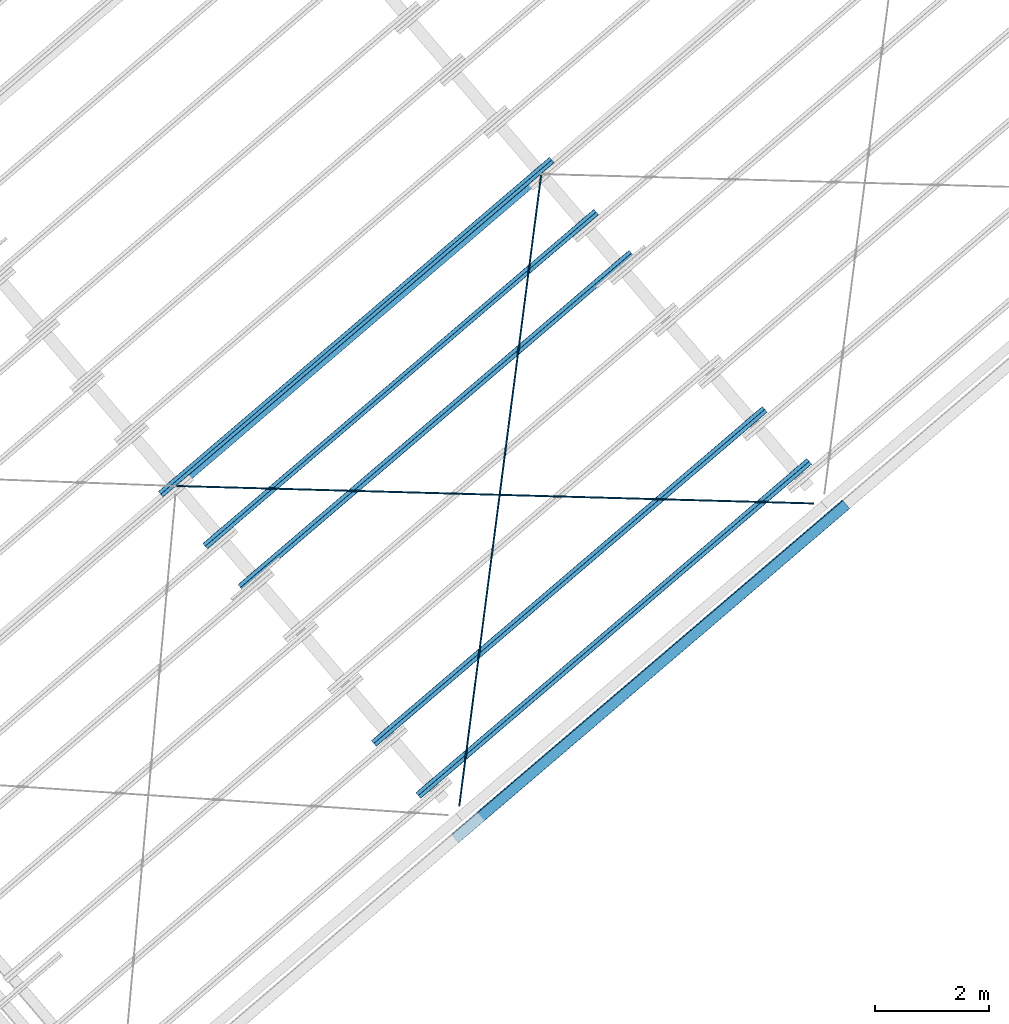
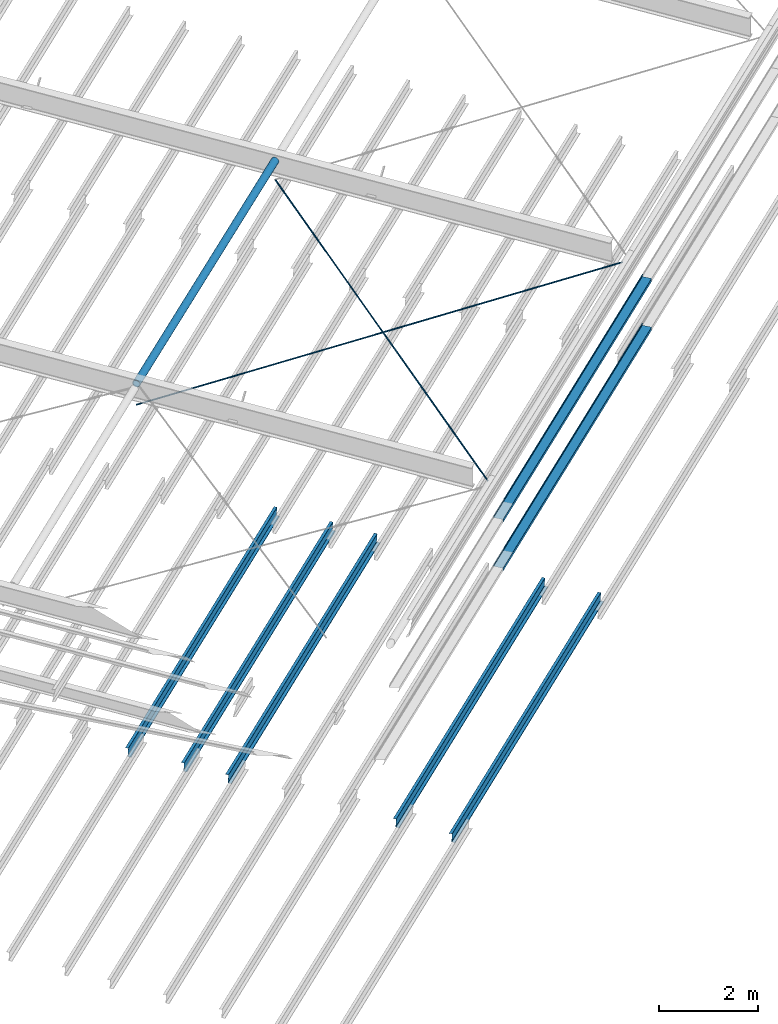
# One storey, part 5 of 25: 8 beams, 2 members, 2 elements without a shape of their own.
"""IFC2X3 building model written with IfcOpenShell, lengths in millimetres."""

from ifc_helpers import new_model, entity, si_unit, converted_unit, derived_unit, direction, frame, frame_2d, origin, origin_2d_with_axis, place, context, subcontext, project, spatial, polyline, circle_curve, parameter, trimmed, segment, composite_curve, circle, hollow_circle, outline, extrude, source, transform, mapped, material, type_object, type_shapes, element, aggregate, save


model = new_model("IFC2X3")

# Units and contexts
model_context = context("Model", 3, precision=0.01, world=origin(), true_north=direction((6.123031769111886e-17, 1.0)))
body_context = subcontext(model_context, "Body", "Model", "MODEL_VIEW")
ifc_project = project(units=[si_unit("LENGTHUNIT", "METRE", prefix="MILLI"), si_unit("AREAUNIT", "SQUARE_METRE"), si_unit("VOLUMEUNIT", "CUBIC_METRE"), converted_unit("PLANEANGLEUNIT", "DEGREE", entity("IfcRatioMeasure", 0.017453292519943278), si_unit("PLANEANGLEUNIT", "RADIAN"), dimensions=[0, 0, 0, 0, 0, 0, 0]), si_unit("MASSUNIT", "GRAM", prefix="KILO"), derived_unit("MASSDENSITYUNIT", [(si_unit("MASSUNIT", "GRAM", prefix="KILO"), 1), (si_unit("LENGTHUNIT", "METRE"), -3)]), derived_unit("MOMENTOFINERTIAUNIT", [(si_unit("LENGTHUNIT", "METRE"), 4)]), si_unit("TIMEUNIT", "SECOND"), si_unit("FREQUENCYUNIT", "HERTZ"), si_unit("THERMODYNAMICTEMPERATUREUNIT", "DEGREE_CELSIUS"), derived_unit("THERMALTRANSMITTANCEUNIT", [(si_unit("MASSUNIT", "GRAM", prefix="KILO"), 1), (si_unit("THERMODYNAMICTEMPERATUREUNIT", "KELVIN"), -1), (si_unit("TIMEUNIT", "SECOND"), -3)]), derived_unit("VOLUMETRICFLOWRATEUNIT", [(si_unit("LENGTHUNIT", "METRE"), 3), (si_unit("TIMEUNIT", "SECOND"), -1)]), derived_unit("MASSFLOWRATEUNIT", [(si_unit("MASSUNIT", "GRAM", prefix="KILO"), 1), (si_unit("TIMEUNIT", "SECOND"), -1)]), derived_unit("ROTATIONALFREQUENCYUNIT", [(si_unit("TIMEUNIT", "SECOND"), -1)]), si_unit("ELECTRICCURRENTUNIT", "AMPERE"), si_unit("ELECTRICVOLTAGEUNIT", "VOLT"), si_unit("POWERUNIT", "WATT"), si_unit("FORCEUNIT", "NEWTON", prefix="KILO"), si_unit("ILLUMINANCEUNIT", "LUX"), si_unit("LUMINOUSFLUXUNIT", "LUMEN"), si_unit("LUMINOUSINTENSITYUNIT", "CANDELA"), derived_unit("USERDEFINED", [(si_unit("MASSUNIT", "GRAM", prefix="KILO"), -1), (si_unit("LENGTHUNIT", "METRE"), -2), (si_unit("TIMEUNIT", "SECOND"), 3), (si_unit("LUMINOUSFLUXUNIT", "LUMEN"), 1)]), derived_unit("SOUNDPOWERUNIT", [(si_unit("MASSUNIT", "GRAM", prefix="KILO"), 1), (si_unit("LENGTHUNIT", "METRE"), 2), (si_unit("TIMEUNIT", "SECOND"), -3)]), derived_unit("LINEARVELOCITYUNIT", [(si_unit("LENGTHUNIT", "METRE"), 1), (si_unit("TIMEUNIT", "SECOND"), -1)]), si_unit("PRESSUREUNIT", "PASCAL"), derived_unit("USERDEFINED", [(si_unit("LENGTHUNIT", "METRE"), -2), (si_unit("MASSUNIT", "GRAM", prefix="KILO"), 1), (si_unit("TIMEUNIT", "SECOND"), -2)]), derived_unit("LINEARFORCEUNIT", [(si_unit("MASSUNIT", "GRAM", prefix="KILO"), 1), (si_unit("LENGTHUNIT", "METRE"), 1), (si_unit("TIMEUNIT", "SECOND"), -2), (si_unit("LENGTHUNIT", "METRE"), -1)]), derived_unit("PLANARFORCEUNIT", [(si_unit("MASSUNIT", "GRAM", prefix="KILO"), 1), (si_unit("LENGTHUNIT", "METRE"), 1), (si_unit("TIMEUNIT", "SECOND"), -2), (si_unit("LENGTHUNIT", "METRE"), -2)])], contexts=[model_context])

# Site, building, storey
site_placement = place(None, frame((962.4174930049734, -6014.433753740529, 0.0), z_axis=(0.0, 0.0, 1.0), x_axis=(0.7601792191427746, 0.649713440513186, 0.0)))
site = spatial("IfcSite", under=ifc_project, at=site_placement, Name="Default", CompositionType="ELEMENT")
building_placement = place(site_placement, origin())
building = spatial("IfcBuilding", under=site, at=building_placement, CompositionType="ELEMENT")
storey_placement = place(building_placement, frame((0.0, 0.0, 9200.0)))
storey = spatial("IfcBuildingStorey", under=building, at=storey_placement, Name="TOP OF CEILING", CompositionType="ELEMENT", Elevation=9200.000000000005)

# Beams
ifc_material_1 = material(Name="Metal - Steel - 300 MPa")
beam_type_1 = type_object("IfcBeamType", Name="ADSK_AU_CHS-Circular Hollow Sections (AS 1163_C350):168.3x6.4CHS", PredefinedType="NOTDEFINED")
beam_1_placement = place(storey_placement, frame((170738.9602047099, -18370.81558212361, 2557.8785563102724), z_axis=(0.005014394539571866, 0.0, 0.9999874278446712), x_axis=(-0.9999874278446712, 0.0, 0.005014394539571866)))
element("IfcBeam", 1, at=beam_1_placement, inside=storey, type_object=beam_type_1, material=ifc_material_1, Name="ADSK_AU_CHS-Circular Hollow Sections (AS 1163_C350):168.3x6.4CHS", ObjectType="ADSK_AU_CHS-Circular Hollow Sections (AS 1163_C350):168.3x6.4CHS", context=body_context, shape_type="SweptSolid", body=[
    extrude(hollow_circle(Radius=84.15000000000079, WallThickness=6.4000000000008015, at=origin_2d_with_axis()), frame((12.7028037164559, 0.0, -84.15000000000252), z_axis=(1.0, 0.0, 0.0), x_axis=(0.0, 1.0, 0.0)), (0.0, 0.0, 1.0), 8387.400000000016),
])
beam_type_2 = type_object("IfcBeamType", Name="ADSK_AU_Round Bars (AS 3679_1):24ROD", PredefinedType="NOTDEFINED")
beam_2_placement = place(storey_placement, frame((162338.96020471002, -18370.815582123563, 2010.0), z_axis=(0.013765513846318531, -0.012433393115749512, 0.9998279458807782), x_axis=(0.741974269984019, -0.6701716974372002, -0.01854935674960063)))
element("IfcBeam", 2, at=beam_2_placement, inside=storey, type_object=beam_type_2, Name="ADSK_AU_Round Bars (AS 3679_1):24ROD", ObjectType="ADSK_AU_Round Bars (AS 3679_1):24ROD", context=body_context, shape_type="SweptSolid", body=[
    extrude(circle(Radius=11.99999999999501, at=frame_2d((-9.771676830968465e-24, 1.082680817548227e-11), x_axis=(1.0, 0.0))), frame((0.023647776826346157, 0.0, -12.0), z_axis=(1.0, 0.0, 0.0), x_axis=(0.0, -1.0, 0.0)), (0.0, 0.0, 1.0), 11156.700000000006),
])
ifc_material_2 = material(Name="Colorbond Paint - Basalt")
beam_3_placement = place(storey_placement, frame((170738.96020470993, -18370.81558212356, 2010.0), z_axis=(-0.013765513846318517, -0.012433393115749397, 0.9998279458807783), x_axis=(-0.7419742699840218, -0.6701716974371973, -0.018549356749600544)))
element("IfcBeam", 3, at=beam_3_placement, inside=storey, type_object=beam_type_2, material=ifc_material_2, Name="ADSK_AU_Round Bars (AS 3679_1):24ROD", ObjectType="ADSK_AU_Round Bars (AS 3679_1):24ROD", context=body_context, shape_type="SweptSolid", body=[
    extrude(circle(Radius=11.99999999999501, at=frame_2d((-9.771676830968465e-24, 1.0826808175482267e-11), x_axis=(1.0, 0.0))), frame((26.523647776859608, 0.0, -12.0), z_axis=(1.0, 0.0, 0.0), x_axis=(0.0, -1.0, 0.0)), (0.0, 0.0, 1.0), 11130.200000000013),
])

# Members
ifc_material_3 = material(Name="Metal - Steel - 345 MPa")
member_type = type_object("IfcMemberType", Name="ADSK_AU_Light Gauge-Zeds:Z20012", PredefinedType="BRACE", material=ifc_material_3)
shared_shape = source(origin(), body_context, "Body", "SweptSolid", [
    extrude(outline(composite_curve([segment(polyline([(-98.30000000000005, -66.44000000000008), (-82.0, -66.44000000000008)]), True, "CONTINUOUS"), segment(polyline([(-82.0, -66.44000000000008), (-82.0, -65.24000000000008)]), True, "CONTINUOUS"), segment(polyline([(-82.0, -65.24000000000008), (-98.29999999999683, -65.24000000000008)]), True, "CONTINUOUS"), segment(trimmed(circle_curve(frame_2d((-98.30000000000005, -63.24000000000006), x_axis=(0.0, -1.0)), 2.0000000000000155), [parameter(270.00000000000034)], [parameter(0.0)], True, "PARAMETER"), False, "CONTINUOUS"), segment(polyline([(-100.3, -63.24000000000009), (-100.29999999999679, -6.440000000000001)]), True, "CONTINUOUS"), segment(trimmed(circle_curve(frame_2d((-98.29999999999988, -6.439999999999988), x_axis=(-1.0, 0.0)), 1.9999999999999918), [parameter(269.9999999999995)], [parameter(0.0)], True, "PARAMETER"), False, "CONTINUOUS"), segment(polyline([(-98.29999999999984, -4.439999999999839), (98.30000000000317, -4.439999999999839)]), True, "CONTINUOUS"), segment(trimmed(circle_curve(frame_2d((98.29999999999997, -1.239999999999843), x_axis=(0.0, -1.0)), 3.199999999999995), [parameter(0.0)], [parameter(90.00000000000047)], True, "PARAMETER"), True, "CONTINUOUS"), segment(polyline([(101.49999999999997, -1.2399999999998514), (101.50000000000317, 68.3599999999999)]), True, "CONTINUOUS"), segment(trimmed(circle_curve(frame_2d((98.29999999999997, 68.35999999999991), x_axis=(1.0, 0.0)), 3.2000000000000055), [parameter(0.0)], [parameter(90.00000000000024)], True, "PARAMETER"), True, "CONTINUOUS"), segment(polyline([(98.3, 71.5599999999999), (82.0, 71.5599999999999)]), True, "CONTINUOUS"), segment(polyline([(82.0, 71.5599999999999), (82.0, 70.3599999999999)]), True, "CONTINUOUS"), segment(polyline([(82.0, 70.3599999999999), (98.30000000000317, 70.3599999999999)]), True, "CONTINUOUS"), segment(trimmed(circle_curve(frame_2d((98.29999999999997, 68.35999999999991), x_axis=(0.0, 1.0)), 1.9999999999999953), [parameter(269.99999999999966)], [parameter(0.0)], True, "PARAMETER"), False, "CONTINUOUS"), segment(polyline([(100.29999999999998, 68.3599999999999), (100.30000000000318, -1.2399999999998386)]), True, "CONTINUOUS"), segment(trimmed(circle_curve(frame_2d((98.29999999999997, -1.2399999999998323), x_axis=(1.0, 0.0)), 2.000000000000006), [parameter(270.00000000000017)], [parameter(0.0)], True, "PARAMETER"), False, "CONTINUOUS"), segment(polyline([(98.3, -3.2399999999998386), (-98.29999999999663, -3.2399999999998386)]), True, "CONTINUOUS"), segment(trimmed(circle_curve(frame_2d((-98.29999999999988, -6.439999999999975), x_axis=(0.0, 1.0)), 3.200000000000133), [parameter(0.0)], [parameter(90.00000000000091)], True, "PARAMETER"), True, "CONTINUOUS"), segment(polyline([(-101.5, -6.440000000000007), (-101.49999999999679, -63.24000000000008)]), True, "CONTINUOUS"), segment(trimmed(circle_curve(frame_2d((-98.30000000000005, -63.24000000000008), x_axis=(-1.0, 0.0)), 3.200000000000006), [parameter(0.0)], [parameter(90.00000000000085)], True, "PARAMETER"), True, "CONTINUOUS")], self_intersect=False)), frame((-4584.499999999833, 4.439999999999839, 0.0), z_axis=(1.0, 0.0, 0.0), x_axis=(0.0, 0.0, -1.0)), (0.0, 0.0, 1.0), 8999.999999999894),
])
type_shapes(member_type, [shared_shape])
for number, where, z_axis, x_axis, name in (
    (4, (166623.46020470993, -26224.928082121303, 22.39999999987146), (0.0, 1.0, 0.0), (1.0, 0.0, 0.0), "ADSK_AU_Light Gauge-Zeds:Z20012"),
    (5, (166623.46020470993, -26224.928082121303, 1222.3999999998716), (0.0, 1.0, 0.0), (1.0, 0.0, 0.0), "ADSK_AU_Light Gauge-Zeds:Z20012"),
):
    element("IfcMember", number, at=place(storey_placement, frame(where, z_axis=z_axis, x_axis=x_axis)), inside=storey, type_object=member_type, material=ifc_material_3, Name=name, ObjectType="ADSK_AU_Light Gauge-Zeds:Z20012", context=body_context, shape_type="MappedRepresentation", body=[
        mapped(shared_shape, transform((0.0, 0.0, 0.0), scale=1.0)),
    ])

# Assembly, beams
assembly_1_placement = place(storey_placement, origin())
assembly_1 = element("IfcElementAssembly", 6, at=assembly_1_placement, inside=storey, Name="Structural Beam System:Structural Beam System 1", ObjectType="Structural Beam System:Structural Beam System 1", AssemblyPlace="NOTDEFINED", PredefinedType="BEAM_GRID")
beam_type_3 = type_object("IfcBeamType", Name="ADSK_AU_Light Gauge-Zeds:Z20015", PredefinedType="NOTDEFINED")
beam_4_placement = place(building_placement, frame((171038.96020471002, -18303.362780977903, 2910.1125820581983), z_axis=(0.0, 0.0, 1.0), x_axis=(-1.0, 0.0, 0.0)))
beam_4 = element("IfcBeam", 7, at=beam_4_placement, type_object=beam_type_3, material=ifc_material_3, Name="ADSK_AU_Light Gauge-Zeds:Z20015", ObjectType="ADSK_AU_Light Gauge-Zeds:Z20015", context=body_context, shape_type="SweptSolid", body=[
    extrude(outline(composite_curve([segment(polyline([(100.0, 1.0), (100.0, -69.0)]), True, "CONTINUOUS"), segment(trimmed(circle_curve(frame_2d((98.0, -69.0), x_axis=(0.0, -1.0)), 2.000000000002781), [parameter(0.0)], [parameter(89.99999999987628)], True, "PARAMETER"), False, "CONTINUOUS"), segment(polyline([(98.0, -71.0), (81.49999999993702, -71.0)]), True, "CONTINUOUS"), segment(polyline([(81.49999999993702, -71.0), (81.49999999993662, -72.50000000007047)]), True, "CONTINUOUS"), segment(polyline([(81.49999999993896, -72.50000000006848), (98.0, -72.5000000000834)]), True, "CONTINUOUS"), segment(trimmed(circle_curve(frame_2d((98.0, -69.0), x_axis=(1.0, 0.0)), 3.5000000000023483), [parameter(270.00000000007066)], [parameter(0.0)], True, "PARAMETER"), True, "CONTINUOUS"), segment(polyline([(101.49999999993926, -69.0), (101.50000000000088, 1.0)]), True, "CONTINUOUS"), segment(trimmed(circle_curve(frame_2d((98.0, 1.0), x_axis=(0.0, 1.0)), 3.500000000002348), [parameter(270.00000000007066)], [parameter(0.0)], True, "PARAMETER"), True, "CONTINUOUS"), segment(polyline([(98.0, 4.49999999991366), (-98.0, 4.500000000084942)]), True, "CONTINUOUS"), segment(trimmed(circle_curve(frame_2d((-98.0, 6.500000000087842), x_axis=(-1.0, 0.0)), 2.0000000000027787), [parameter(0.0)], [parameter(89.99999999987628)], True, "PARAMETER"), False, "CONTINUOUS"), segment(polyline([(-100.0, 6.500000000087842), (-100.0, 64.0)]), True, "CONTINUOUS"), segment(trimmed(circle_curve(frame_2d((-98.0, 64.0), x_axis=(0.0, 1.0)), 2.000000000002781), [parameter(0.0)], [parameter(89.99999999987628)], True, "PARAMETER"), False, "CONTINUOUS"), segment(polyline([(-98.0, 66.0), (-81.49999999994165, 66.0)]), True, "CONTINUOUS"), segment(polyline([(-81.4999999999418, 66.0), (-81.49999999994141, 67.5000000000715)]), True, "CONTINUOUS"), segment(polyline([(-81.49999999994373, 67.50000000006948), (-98.0, 67.50000000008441)]), True, "CONTINUOUS"), segment(trimmed(circle_curve(frame_2d((-98.0, 64.0), x_axis=(-1.0, 0.0)), 3.500000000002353), [parameter(270.00000000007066)], [parameter(0.0)], True, "PARAMETER"), True, "CONTINUOUS"), segment(polyline([(-101.49999999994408, 64.0), (-101.4999999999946, 6.500000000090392)]), True, "CONTINUOUS"), segment(trimmed(circle_curve(frame_2d((-98.0, 6.500000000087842), x_axis=(0.0, -1.0)), 3.5000000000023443), [parameter(270.00000000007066)], [parameter(0.0)], True, "PARAMETER"), True, "CONTINUOUS"), segment(polyline([(-98.0, 3.0), (98.0, 3.0)]), True, "CONTINUOUS"), segment(trimmed(circle_curve(frame_2d((98.0, 1.0), x_axis=(1.0, 0.0)), 2.000000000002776), [parameter(0.0)], [parameter(89.99999999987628)], True, "PARAMETER"), False, "CONTINUOUS")], self_intersect=False)), frame((0.20000000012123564, -2.5912438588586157, -101.56665523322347), z_axis=(-1.0, 0.0, 0.0), x_axis=(0.0, -0.06975647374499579, -0.9975640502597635)), (0.0, 0.0, -1.0), 9000.000000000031),
])
beam_5_placement = place(building_placement, frame((171038.96020471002, -19500.43964128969, 2826.4048135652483), z_axis=(0.0, 0.0, 1.0), x_axis=(-1.0, 0.0, 0.0)))
beam_5 = element("IfcBeam", 8, at=beam_5_placement, type_object=beam_type_3, material=ifc_material_3, Name="ADSK_AU_Light Gauge-Zeds:Z20015", ObjectType="ADSK_AU_Light Gauge-Zeds:Z20015", context=body_context, shape_type="SweptSolid", body=[
    extrude(outline(composite_curve([segment(polyline([(100.0, 1.0), (100.0, -69.0)]), True, "CONTINUOUS"), segment(trimmed(circle_curve(frame_2d((98.0, -69.0), x_axis=(0.0, -1.0)), 1.9999999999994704), [parameter(0.0)], [parameter(90.00000000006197)], True, "PARAMETER"), False, "CONTINUOUS"), segment(polyline([(98.0, -71.0), (81.4999999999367, -71.0)]), True, "CONTINUOUS"), segment(polyline([(81.4999999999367, -71.0), (81.49999999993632, -72.50000000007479)]), True, "CONTINUOUS"), segment(polyline([(81.4999999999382, -72.50000000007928), (98.0, -72.50000000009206)]), True, "CONTINUOUS"), segment(trimmed(circle_curve(frame_2d((98.0, -69.0), x_axis=(1.0, 0.0)), 3.499999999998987), [parameter(269.99999999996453)], [parameter(0.0)], True, "PARAMETER"), True, "CONTINUOUS"), segment(polyline([(101.49999999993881, -69.0), (101.50000000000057, 1.0)]), True, "CONTINUOUS"), segment(trimmed(circle_curve(frame_2d((98.0, 1.0), x_axis=(0.0, 1.0)), 3.500000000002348), [parameter(270.00000000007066)], [parameter(0.0)], True, "PARAMETER"), True, "CONTINUOUS"), segment(polyline([(98.0, 4.49999999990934), (-98.0, 4.500000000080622)]), True, "CONTINUOUS"), segment(trimmed(circle_curve(frame_2d((-98.0, 6.500000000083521), x_axis=(-1.0, 0.0)), 2.0000000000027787), [parameter(0.0)], [parameter(89.99999999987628)], True, "PARAMETER"), False, "CONTINUOUS"), segment(polyline([(-100.0, 6.500000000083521), (-100.0, 64.0)]), True, "CONTINUOUS"), segment(trimmed(circle_curve(frame_2d((-98.0, 64.0), x_axis=(0.0, 1.0)), 2.000000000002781), [parameter(0.0)], [parameter(89.99999999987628)], True, "PARAMETER"), False, "CONTINUOUS"), segment(polyline([(-98.0, 66.0), (-81.49999999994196, 66.0)]), True, "CONTINUOUS"), segment(polyline([(-81.4999999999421, 66.0), (-81.4999999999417, 67.50000000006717)]), True, "CONTINUOUS"), segment(polyline([(-81.49999999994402, 67.50000000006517), (-98.0, 67.50000000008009)]), True, "CONTINUOUS"), segment(trimmed(circle_curve(frame_2d((-98.0, 64.0), x_axis=(-1.0, 0.0)), 3.500000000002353), [parameter(270.00000000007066)], [parameter(0.0)], True, "PARAMETER"), True, "CONTINUOUS"), segment(polyline([(-101.49999999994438, 64.0), (-101.4999999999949, 6.500000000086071)]), True, "CONTINUOUS"), segment(trimmed(circle_curve(frame_2d((-98.0, 6.500000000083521), x_axis=(0.0, -1.0)), 3.5000000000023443), [parameter(270.00000000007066)], [parameter(0.0)], True, "PARAMETER"), True, "CONTINUOUS"), segment(polyline([(-98.0, 3.0), (98.0, 3.0)]), True, "CONTINUOUS"), segment(trimmed(circle_curve(frame_2d((98.0, 1.0), x_axis=(1.0, 0.0)), 2.000000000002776), [parameter(0.0)], [parameter(89.99999999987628)], True, "PARAMETER"), False, "CONTINUOUS")], self_intersect=False)), frame((0.20000000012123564, -2.591243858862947, -101.56665523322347), z_axis=(-1.0, 0.0, 0.0), x_axis=(0.0, -0.06975647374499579, -0.9975640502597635)), (0.0, 0.0, -1.0), 9000.000000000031),
])
aggregate(assembly_1, [beam_4, beam_5])

assembly_2_placement = place(storey_placement, origin())
assembly_2 = element("IfcElementAssembly", 9, at=assembly_2_placement, inside=storey, Name="Structural Beam System:Structural Beam System 1", ObjectType="Structural Beam System:Structural Beam System 1", AssemblyPlace="NOTDEFINED", PredefinedType="BEAM_GRID")
ifc_material_4 = material(Name="Metal - Light Gauge")
beam_type_4 = type_object("IfcBeamType", Name="ADSK_AU_Light Gauge-Zeds:Z20024", PredefinedType="NOTDEFINED")
beam_6_placement = place(building_placement, frame((171038.56020470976, -20448.786024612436, 2760.0899743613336), z_axis=(0.0, 0.0, 1.0), x_axis=(-1.0, 0.0, 0.0)))
beam_6 = element("IfcBeam", 10, at=beam_6_placement, type_object=beam_type_4, material=ifc_material_4, Name="ADSK_AU_Light Gauge-Zeds:Z20024", ObjectType="ADSK_AU_Light Gauge-Zeds:Z20024", context=body_context, shape_type="SweptSolid", body=[
    extrude(outline(composite_curve([segment(polyline([(99.10000000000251, 1.030000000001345), (99.10000000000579, -71.66999999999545)]), True, "CONTINUOUS"), segment(trimmed(circle_curve(frame_2d((97.10000000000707, -71.66999999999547), x_axis=(0.0, -1.0)), 1.9999999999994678), [parameter(0.0)], [parameter(90.00000000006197)], True, "PARAMETER"), False, "CONTINUOUS"), segment(polyline([(97.10000000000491, -73.66999999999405), (79.5000000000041, -73.66999999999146)]), True, "CONTINUOUS"), segment(polyline([(79.5000000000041, -73.66999999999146), (79.50000000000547, -76.06999999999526)]), True, "CONTINUOUS"), segment(polyline([(79.50000000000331, -76.0699999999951), (97.10000000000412, -76.06999999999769)]), True, "CONTINUOUS"), segment(trimmed(circle_curve(frame_2d((97.10000000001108, -71.67000000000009), x_axis=(1.0, 0.0)), 4.39999999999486), [parameter(269.9999999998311)], [parameter(0.0)], True, "PARAMETER"), True, "CONTINUOUS"), segment(polyline([(101.50000000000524, -71.66999999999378), (101.50000000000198, 1.0300000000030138)]), True, "CONTINUOUS"), segment(trimmed(circle_curve(frame_2d((97.10000000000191, 1.030000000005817), x_axis=(0.0, 1.0)), 4.399999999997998), [parameter(269.9999999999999)], [parameter(0.0)], True, "PARAMETER"), True, "CONTINUOUS"), segment(polyline([(97.10000000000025, 5.430000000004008), (-97.09999999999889, 5.429999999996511)]), True, "CONTINUOUS"), segment(trimmed(circle_curve(frame_2d((-97.10000000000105, 7.42999999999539), x_axis=(-1.0, 0.0)), 1.9999999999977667), [parameter(0.0)], [parameter(90.00000000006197)], True, "PARAMETER"), False, "CONTINUOUS"), segment(polyline([(-99.09999999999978, 7.429999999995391), (-99.10000000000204, 66.02999999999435)]), True, "CONTINUOUS"), segment(trimmed(circle_curve(frame_2d((-97.10000000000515, 66.02999999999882), x_axis=(0.0, 1.0)), 1.9999999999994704), [parameter(0.0)], [parameter(90.00000000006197)], True, "PARAMETER"), False, "CONTINUOUS"), segment(polyline([(-97.10000000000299, 68.0299999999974), (-79.5000000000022, 68.02999999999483)]), True, "CONTINUOUS"), segment(polyline([(-79.50000000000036, 68.02999999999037), (-79.50000000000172, 70.42999999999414)]), True, "CONTINUOUS"), segment(polyline([(-79.50000000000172, 70.42999999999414), (-97.10000000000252, 70.42999999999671)]), True, "CONTINUOUS"), segment(trimmed(circle_curve(frame_2d((-97.10000000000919, 66.03000000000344), x_axis=(-1.0, 0.0)), 4.3999999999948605), [parameter(269.9999999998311)], [parameter(0.0)], True, "PARAMETER"), True, "CONTINUOUS"), segment(polyline([(-101.50000000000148, 66.02999999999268), (-101.49999999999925, 7.429999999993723)]), True, "CONTINUOUS"), segment(trimmed(circle_curve(frame_2d((-97.10000000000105, 7.42999999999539), x_axis=(0.0, -1.0)), 4.399999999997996), [parameter(269.9999999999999)], [parameter(0.0)], True, "PARAMETER"), True, "CONTINUOUS"), segment(polyline([(-97.0999999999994, 3.0299999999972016), (97.09999999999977, 3.0300000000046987)]), True, "CONTINUOUS"), segment(trimmed(circle_curve(frame_2d((97.10000000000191, 1.030000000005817), x_axis=(1.0, 0.0)), 1.9999999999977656), [parameter(0.0)], [parameter(90.00000000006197)], True, "PARAMETER"), False, "CONTINUOUS")], self_intersect=False)), frame((0.0, -1.6635092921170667, -101.63152875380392), z_axis=(-1.0, 0.0, 0.0), x_axis=(0.0, -0.06975647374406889, -0.9975640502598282)), (0.0, 0.0, -1.0), 9000.000000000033),
])
beam_7_placement = place(building_placement, frame((171038.56020470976, -24040.016605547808, 2508.9666688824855), z_axis=(0.0, 0.0, 1.0), x_axis=(-1.0, 0.0, 0.0)))
beam_7 = element("IfcBeam", 11, at=beam_7_placement, type_object=beam_type_4, material=ifc_material_4, Name="ADSK_AU_Light Gauge-Zeds:Z20024", ObjectType="ADSK_AU_Light Gauge-Zeds:Z20024", context=body_context, shape_type="SweptSolid", body=[
    extrude(outline(composite_curve([segment(polyline([(99.10000000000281, 1.0300000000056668), (99.10000000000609, -71.66999999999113)]), True, "CONTINUOUS"), segment(trimmed(circle_curve(frame_2d((97.10000000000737, -71.66999999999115), x_axis=(0.0, -1.0)), 1.9999999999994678), [parameter(0.0)], [parameter(90.00000000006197)], True, "PARAMETER"), False, "CONTINUOUS"), segment(polyline([(97.10000000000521, -73.66999999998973), (79.5000000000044, -73.66999999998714)]), True, "CONTINUOUS"), segment(polyline([(79.5000000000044, -73.66999999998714), (79.50000000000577, -76.06999999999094)]), True, "CONTINUOUS"), segment(polyline([(79.50000000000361, -76.06999999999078), (97.10000000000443, -76.06999999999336)]), True, "CONTINUOUS"), segment(trimmed(circle_curve(frame_2d((97.10000000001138, -71.66999999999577), x_axis=(1.0, 0.0)), 4.39999999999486), [parameter(269.9999999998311)], [parameter(0.0)], True, "PARAMETER"), True, "CONTINUOUS"), segment(polyline([(101.50000000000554, -71.66999999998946), (101.50000000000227, 1.030000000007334)]), True, "CONTINUOUS"), segment(trimmed(circle_curve(frame_2d((97.10000000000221, 1.030000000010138), x_axis=(0.0, 1.0)), 4.399999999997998), [parameter(269.9999999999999)], [parameter(0.0)], True, "PARAMETER"), True, "CONTINUOUS"), segment(polyline([(97.10000000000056, 5.430000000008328), (-97.09999999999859, 5.430000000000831)]), True, "CONTINUOUS"), segment(trimmed(circle_curve(frame_2d((-97.10000000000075, 7.429999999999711), x_axis=(-1.0, 0.0)), 1.9999999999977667), [parameter(0.0)], [parameter(90.00000000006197)], True, "PARAMETER"), False, "CONTINUOUS"), segment(polyline([(-99.09999999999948, 7.429999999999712), (-99.10000000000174, 66.02999999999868)]), True, "CONTINUOUS"), segment(trimmed(circle_curve(frame_2d((-97.10000000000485, 66.03000000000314), x_axis=(0.0, 1.0)), 1.9999999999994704), [parameter(0.0)], [parameter(90.00000000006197)], True, "PARAMETER"), False, "CONTINUOUS"), segment(polyline([(-97.1000000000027, 68.03000000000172), (-79.50000000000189, 68.02999999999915)]), True, "CONTINUOUS"), segment(polyline([(-79.50000000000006, 68.02999999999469), (-79.50000000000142, 70.42999999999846)]), True, "CONTINUOUS"), segment(polyline([(-79.50000000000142, 70.42999999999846), (-97.10000000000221, 70.43000000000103)]), True, "CONTINUOUS"), segment(trimmed(circle_curve(frame_2d((-97.10000000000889, 66.03000000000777), x_axis=(-1.0, 0.0)), 4.3999999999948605), [parameter(269.9999999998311)], [parameter(0.0)], True, "PARAMETER"), True, "CONTINUOUS"), segment(polyline([(-101.50000000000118, 66.029999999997), (-101.49999999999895, 7.429999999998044)]), True, "CONTINUOUS"), segment(trimmed(circle_curve(frame_2d((-97.10000000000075, 7.429999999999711), x_axis=(0.0, -1.0)), 4.399999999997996), [parameter(269.9999999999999)], [parameter(0.0)], True, "PARAMETER"), True, "CONTINUOUS"), segment(polyline([(-97.0999999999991, 3.030000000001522), (97.10000000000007, 3.030000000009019)]), True, "CONTINUOUS"), segment(trimmed(circle_curve(frame_2d((97.10000000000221, 1.030000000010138), x_axis=(1.0, 0.0)), 1.9999999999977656), [parameter(0.0)], [parameter(90.00000000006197)], True, "PARAMETER"), False, "CONTINUOUS")], self_intersect=False)), frame((0.0, -1.6635092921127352, -101.63152875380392), z_axis=(-1.0, 0.0, 0.0), x_axis=(0.0, -0.06975647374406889, -0.9975640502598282)), (0.0, 0.0, -1.0), 9000.000000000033),
])
beam_8_placement = place(building_placement, frame((171038.56020470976, -25237.093465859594, 2425.2589003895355), z_axis=(0.0, 0.0, 1.0), x_axis=(-1.0, 0.0, 0.0)))
beam_8 = element("IfcBeam", 12, at=beam_8_placement, type_object=beam_type_4, material=ifc_material_4, Name="ADSK_AU_Light Gauge-Zeds:Z20024", ObjectType="ADSK_AU_Light Gauge-Zeds:Z20024", context=body_context, shape_type="SweptSolid", body=[
    extrude(outline(composite_curve([segment(polyline([(99.10000000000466, 1.030000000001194), (99.10000000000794, -71.6699999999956)]), True, "CONTINUOUS"), segment(trimmed(circle_curve(frame_2d((97.10000000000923, -71.66999999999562), x_axis=(0.0, -1.0)), 1.9999999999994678), [parameter(0.0)], [parameter(90.00000000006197)], True, "PARAMETER"), False, "CONTINUOUS"), segment(polyline([(97.10000000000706, -73.66999999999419), (79.50000000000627, -73.66999999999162)]), True, "CONTINUOUS"), segment(polyline([(79.50000000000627, -73.66999999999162), (79.50000000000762, -76.0699999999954)]), True, "CONTINUOUS"), segment(polyline([(79.50000000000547, -76.06999999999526), (97.10000000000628, -76.06999999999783)]), True, "CONTINUOUS"), segment(trimmed(circle_curve(frame_2d((97.10000000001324, -71.67000000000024), x_axis=(1.0, 0.0)), 4.39999999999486), [parameter(269.9999999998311)], [parameter(0.0)], True, "PARAMETER"), True, "CONTINUOUS"), segment(polyline([(101.5000000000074, -71.66999999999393), (101.50000000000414, 1.0300000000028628)]), True, "CONTINUOUS"), segment(trimmed(circle_curve(frame_2d((97.10000000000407, 1.0300000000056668), x_axis=(0.0, 1.0)), 4.399999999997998), [parameter(269.9999999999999)], [parameter(0.0)], True, "PARAMETER"), True, "CONTINUOUS"), segment(polyline([(97.1000000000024, 5.430000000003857), (-97.09999999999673, 5.42999999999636)]), True, "CONTINUOUS"), segment(trimmed(circle_curve(frame_2d((-97.0999999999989, 7.42999999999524), x_axis=(-1.0, 0.0)), 1.9999999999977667), [parameter(0.0)], [parameter(90.00000000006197)], True, "PARAMETER"), False, "CONTINUOUS"), segment(polyline([(-99.09999999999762, 7.42999999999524), (-99.09999999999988, 66.0299999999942)]), True, "CONTINUOUS"), segment(trimmed(circle_curve(frame_2d((-97.100000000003, 66.02999999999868), x_axis=(0.0, 1.0)), 1.9999999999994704), [parameter(0.0)], [parameter(90.00000000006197)], True, "PARAMETER"), False, "CONTINUOUS"), segment(polyline([(-97.10000000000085, 68.02999999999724), (-79.50000000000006, 68.02999999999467)]), True, "CONTINUOUS"), segment(polyline([(-79.4999999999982, 68.02999999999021), (-79.49999999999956, 70.42999999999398)]), True, "CONTINUOUS"), segment(polyline([(-79.49999999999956, 70.42999999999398), (-97.10000000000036, 70.42999999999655)]), True, "CONTINUOUS"), segment(trimmed(circle_curve(frame_2d((-97.10000000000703, 66.0300000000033), x_axis=(-1.0, 0.0)), 4.3999999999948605), [parameter(269.9999999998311)], [parameter(0.0)], True, "PARAMETER"), True, "CONTINUOUS"), segment(polyline([(-101.49999999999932, 66.02999999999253), (-101.49999999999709, 7.429999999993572)]), True, "CONTINUOUS"), segment(trimmed(circle_curve(frame_2d((-97.0999999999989, 7.42999999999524), x_axis=(0.0, -1.0)), 4.399999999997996), [parameter(269.9999999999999)], [parameter(0.0)], True, "PARAMETER"), True, "CONTINUOUS"), segment(polyline([(-97.09999999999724, 3.0299999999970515), (97.10000000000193, 3.0300000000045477)]), True, "CONTINUOUS"), segment(trimmed(circle_curve(frame_2d((97.10000000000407, 1.0300000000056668), x_axis=(1.0, 0.0)), 1.9999999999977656), [parameter(0.0)], [parameter(90.00000000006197)], True, "PARAMETER"), False, "CONTINUOUS")], self_intersect=False)), frame((0.0, -1.6635092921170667, -101.63152875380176), z_axis=(-1.0, 0.0, 0.0), x_axis=(0.0, -0.06975647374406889, -0.9975640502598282)), (0.0, 0.0, -1.0), 9000.000000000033),
])
aggregate(assembly_2, [beam_6, beam_7, beam_8])

save(model, "model.ifc")
